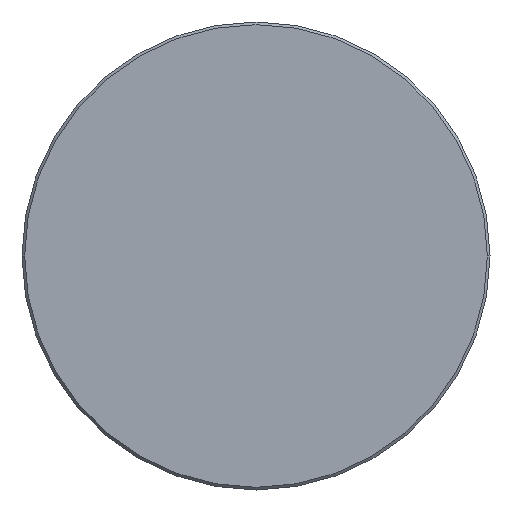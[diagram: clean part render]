
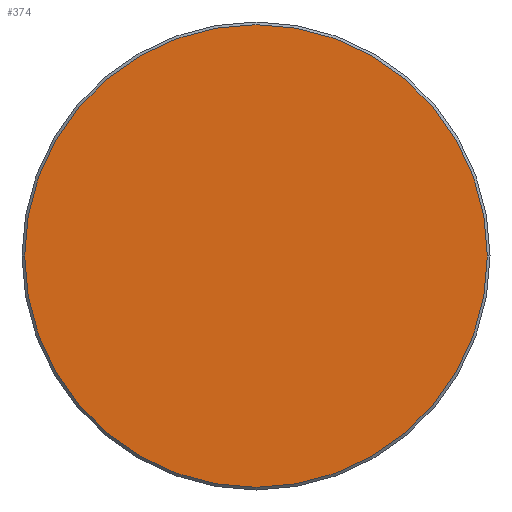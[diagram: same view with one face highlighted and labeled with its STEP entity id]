
A CAD part, left-side view. The second image highlights one B-rep face of the part: STEP entity #374.
In plain terms, the highlighted planar face has unit normal (-1, 0, 0).
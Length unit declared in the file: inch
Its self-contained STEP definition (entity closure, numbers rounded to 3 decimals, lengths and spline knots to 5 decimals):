
#11 = VERTEX_POINT ( 'NONE', #250 ) ;
#12 = DIRECTION ( 'NONE',  ( 0., -1., 0. ) ) ;
#13 = DIRECTION ( 'NONE',  ( -1., 0., 0. ) ) ;
#68 = AXIS2_PLACEMENT_3D ( 'NONE', #189, #13, #159 ) ;
#118 = ORIENTED_EDGE ( 'NONE', *, *, #153, .T. ) ;
#146 = EDGE_CURVE ( 'NONE', #11, #205, #285, .T. ) ;
#153 = EDGE_CURVE ( 'NONE', #205, #11, #201, .T. ) ;
#159 = DIRECTION ( 'NONE',  ( 0., -1., 0. ) ) ;
#189 = CARTESIAN_POINT ( 'NONE',  ( 0., 0., 0. ) ) ;
#201 = CIRCLE ( 'NONE', #267, 0.34756 ) ;
#205 = VERTEX_POINT ( 'NONE', #215 ) ;
#215 = CARTESIAN_POINT ( 'NONE',  ( 0., 0.34756, 0. ) ) ;
#237 = CARTESIAN_POINT ( 'NONE',  ( 0., 0., 0. ) ) ;
#239 = FACE_OUTER_BOUND ( 'NONE', #378, .T. ) ;
#240 = ORIENTED_EDGE ( 'NONE', *, *, #146, .T. ) ;
#250 = CARTESIAN_POINT ( 'NONE',  ( 0., -0.34756, 0. ) ) ;
#265 = DIRECTION ( 'NONE',  ( -1., 0., 0. ) ) ;
#267 = AXIS2_PLACEMENT_3D ( 'NONE', #237, #265, #12 ) ;
#283 = DIRECTION ( 'NONE',  ( 0., -1., 0. ) ) ;
#285 = CIRCLE ( 'NONE', #68, 0.34756 ) ;
#314 = DIRECTION ( 'NONE',  ( -1., 0., 0. ) ) ;
#332 = AXIS2_PLACEMENT_3D ( 'NONE', #375, #314, #283 ) ;
#338 = PLANE ( 'NONE',  #332 ) ;
#374 = ADVANCED_FACE ( 'NONE', ( #239 ), #338, .T. ) ;
#375 = CARTESIAN_POINT ( 'NONE',  ( 0., 0., 0. ) ) ;
#378 = EDGE_LOOP ( 'NONE', ( #118, #240 ) ) ;
